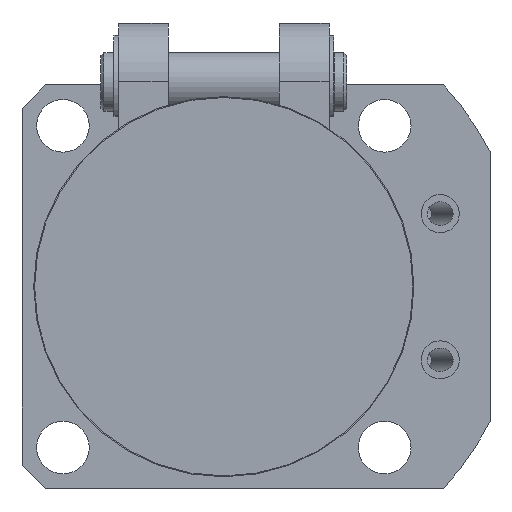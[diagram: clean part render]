
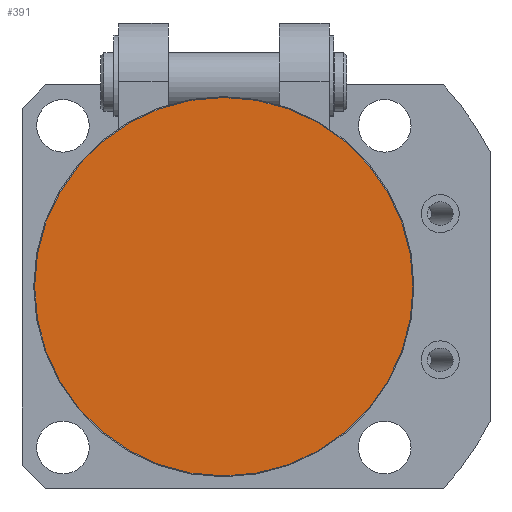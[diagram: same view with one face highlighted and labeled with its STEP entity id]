
A CAD part, front view. The second image highlights one B-rep face of the part: STEP entity #391.
In plain terms, the highlighted planar face has unit normal (0, -1, 0).
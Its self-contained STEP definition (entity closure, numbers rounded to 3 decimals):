
#391 = ADVANCED_FACE( '', ( #769 ), #770, .T. );
#769 = FACE_OUTER_BOUND( '', #1426, .T. );
#770 = PLANE( '', #1427 );
#1426 = EDGE_LOOP( '', ( #2383 ) );
#1427 = AXIS2_PLACEMENT_3D( '', #2384, #2385, #2386 );
#2383 = ORIENTED_EDGE( '', *, *, #4190, .T. );
#2384 = CARTESIAN_POINT( '', ( 0., -63., 0. ) );
#2385 = DIRECTION( '', ( 0., -1., 0. ) );
#2386 = DIRECTION( '', ( 1., 0., 0. ) );
#4190 = EDGE_CURVE( '', #4972, #4972, #4973, .T. );
#4972 = VERTEX_POINT( '', #6424 );
#4973 = CIRCLE( '', #6425, 32.35 );
#6424 = CARTESIAN_POINT( '', ( -32.35, -63., 0. ) );
#6425 = AXIS2_PLACEMENT_3D( '', #7756, #7757, #7758 );
#7756 = CARTESIAN_POINT( '', ( 0., -63., 0. ) );
#7757 = DIRECTION( '', ( 0., -1., 0. ) );
#7758 = DIRECTION( '', ( -1., 0., 0. ) );
